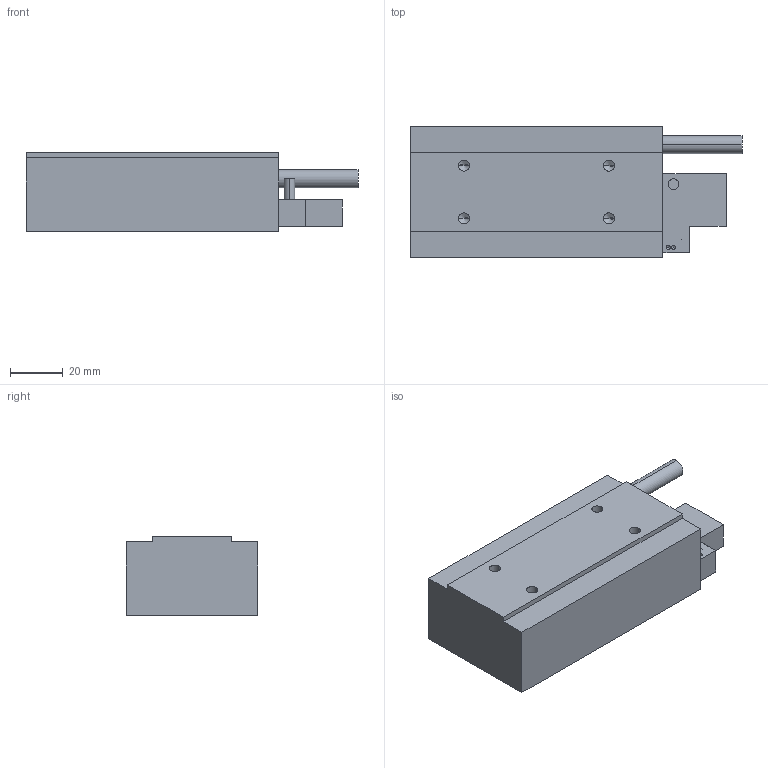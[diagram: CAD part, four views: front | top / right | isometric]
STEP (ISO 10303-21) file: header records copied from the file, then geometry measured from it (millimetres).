
FILE_DESCRIPTION (( 'STEP AP214' ), '1' );
FILE_NAME ('FLT-50-96（带霍尔）.STEP', '2022-04-13T09:06:42', ( 'Microsoft' ), ( 'Microsoft' ), 'SwSTEP 2.0', 'SolidWorks 2016', '' );
FILE_SCHEMA (( 'AUTOMOTIVE_DESIGN' ));
Length unit declared in the file: millimetre
Products named in the file (3): FLT-50-96; FLT齊嫌耀倰芞; FLT-50-96（带霍尔）
Assembly tree (2 placements, depth 2):
  FLT-50-96（带霍尔）
    FLT齊嫌耀倰芞
    FLT-50-96
Bounding box: 126 x 50 x 30 mm (x, y, z)
Volume: 146555.5 mm3; surface area: 21872.8 mm2
Topology: 2 solids, 2 shells, 66 faces, 158 edges, 92 vertices
Faces by surface type: cylinder 28, plane 22, cone 16
Entity records: 2048 total; most frequent: DIRECTION 340, CARTESIAN_POINT 305, ORIENTED_EDGE 284, EDGE_CURVE 142, AXIS2_PLACEMENT_3D 127, VERTEX_POINT 92, LINE 86, VECTOR 86
